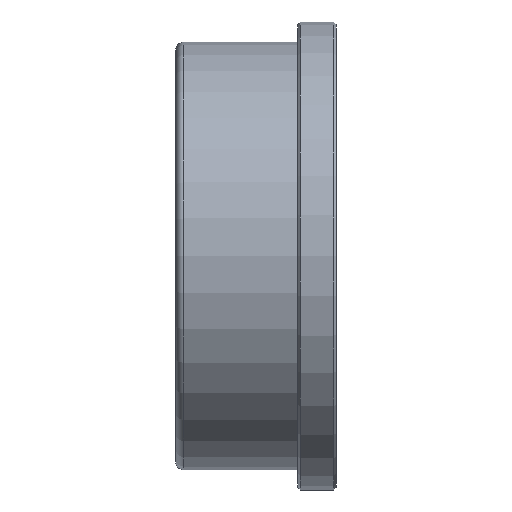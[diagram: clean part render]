
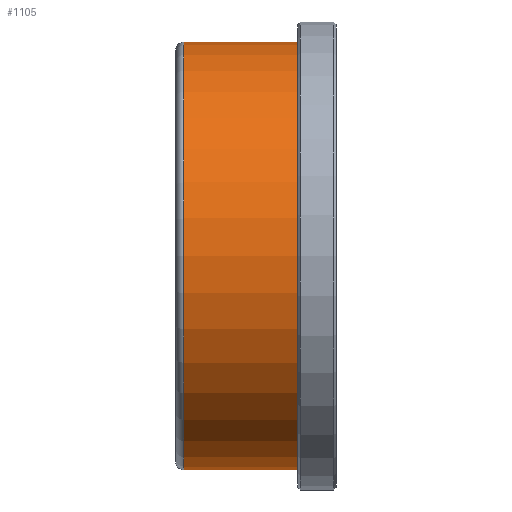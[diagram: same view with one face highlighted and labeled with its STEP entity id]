
A CAD part, top view. The second image highlights one B-rep face of the part: STEP entity #1105.
In plain terms, the highlighted cylindrical face has radius 6.35 mm (diameter 12.7 mm), a partial arc.
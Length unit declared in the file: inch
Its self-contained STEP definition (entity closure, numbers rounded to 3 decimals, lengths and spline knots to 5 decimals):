
#279=CARTESIAN_POINT('',(0.04875,0.,0.));
#280=DIRECTION('',(1.,0.,0.));
#281=DIRECTION('',(0.,1.,0.));
#282=AXIS2_PLACEMENT_3D('',#279,#280,#281);
#284=DIRECTION('',(-1.,0.,0.));
#285=VECTOR('',#284,0.13313);
#286=CARTESIAN_POINT('',(0.04875,0.25,0.));
#287=LINE('',#286,#285);
#288=DIRECTION('',(-1.,0.,0.));
#289=VECTOR('',#288,0.13313);
#290=CARTESIAN_POINT('',(0.04875,-0.25,0.));
#291=LINE('',#290,#289);
#312=CARTESIAN_POINT('',(-0.08438,0.,0.));
#313=DIRECTION('',(1.,0.,0.));
#314=DIRECTION('',(0.,1.,0.));
#315=AXIS2_PLACEMENT_3D('',#312,#313,#314);
#525=CARTESIAN_POINT('',(0.04875,0.25,0.));
#526=CARTESIAN_POINT('',(-0.08438,0.25,0.));
#527=VERTEX_POINT('',#525);
#528=VERTEX_POINT('',#526);
#545=CARTESIAN_POINT('',(0.04875,-0.25,0.));
#546=CARTESIAN_POINT('',(-0.08438,-0.25,0.));
#547=VERTEX_POINT('',#545);
#548=VERTEX_POINT('',#546);
#1091=CARTESIAN_POINT('',(-0.10313,0.,0.));
#1092=DIRECTION('',(1.,0.,0.));
#1093=DIRECTION('',(0.,-1.,0.));
#1094=AXIS2_PLACEMENT_3D('',#1091,#1092,#1093);
#1095=CYLINDRICAL_SURFACE('',#1094,0.25);
#1097=ORIENTED_EDGE('',*,*,#1096,.F.);
#1098=ORIENTED_EDGE('',*,*,#1084,.T.);
#1100=ORIENTED_EDGE('',*,*,#1099,.T.);
#1102=ORIENTED_EDGE('',*,*,#1101,.F.);
#1103=EDGE_LOOP('',(#1097,#1098,#1100,#1102));
#1104=FACE_OUTER_BOUND('',#1103,.F.);
#1105=ADVANCED_FACE('',(#1104),#1095,.T.);
#283=CIRCLE('',#282,0.25);
#316=CIRCLE('',#315,0.25);
#1084=EDGE_CURVE('',#527,#547,#283,.T.);
#1096=EDGE_CURVE('',#527,#528,#287,.T.);
#1099=EDGE_CURVE('',#547,#548,#291,.T.);
#1101=EDGE_CURVE('',#528,#548,#316,.T.);
